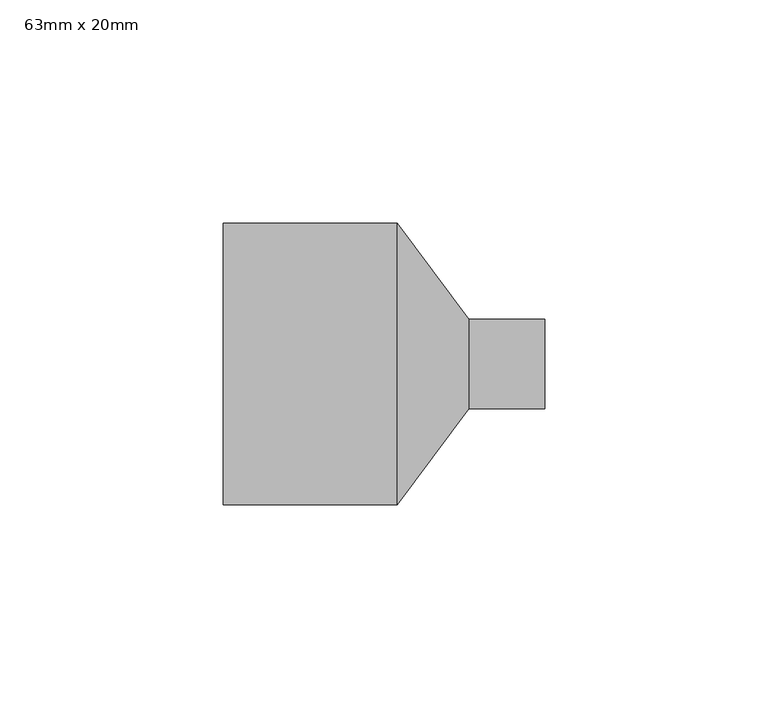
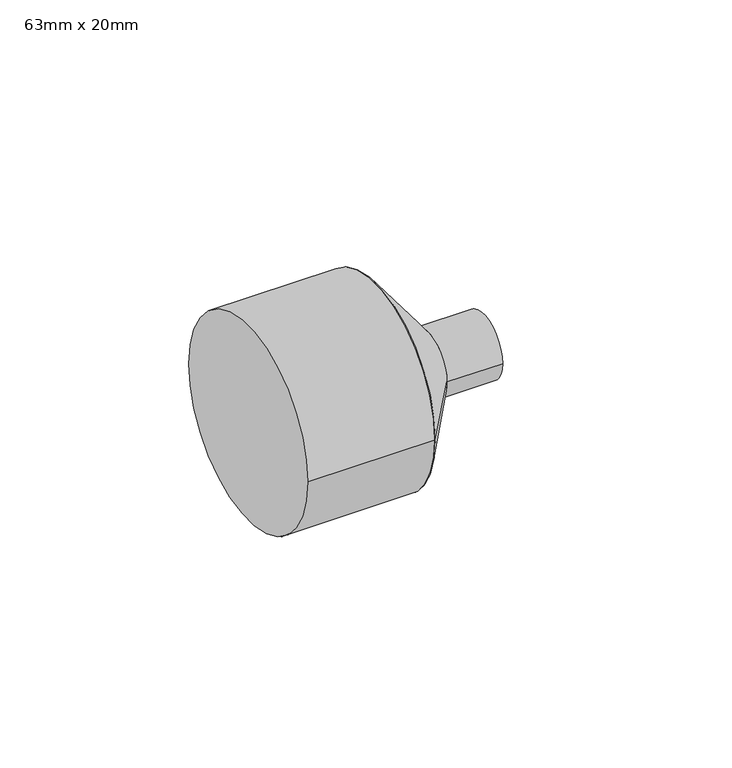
"""IFC4 building model written with IfcOpenShell, lengths in millimetres: pipe fitting geometry, PipeFitting_HTA_CPVC_ReducingBushesLongPattern : 63mm x 20mm."""

from ifc_helpers import new_model, si_unit, point, frame, origin, origin_2d, place, context, project, spatial, polyline, circle_curve, trimmed, segment, composite_curve, outline, extrude, source, transform, mapped, element, save
from ifc_brep_helpers import plane_surface, revolved_surface, advanced_brep


def pipe_fitting_63mm_x_20mm_635b69e5(model_context):
    return source(origin(), model_context, "Body", "SolidModel", [
        advanced_brep(
        [(55.0, -10.0, 0.0), (55.0, 10.0, 0.0), (39.0, -31.5, 0.0), (39.0, 31.5, 0.0)],
        [
            (0, 1, circle_curve(frame((55.0, 0.0, 0.0), z_axis=(1.0, 0.0, 0.0), x_axis=(0.0, -1.0, 0.0)), 10.0)),
            (1, 0, circle_curve(frame((55.0, 0.0, 0.0), z_axis=(1.0, 0.0, 0.0), x_axis=(0.0, 1.0, 0.0)), 10.0)),
            (2, 3, circle_curve(frame((39.0, 0.0, 0.0), z_axis=(-1.0, 0.0, 0.0), x_axis=(0.0, 1.0, 0.0)), 31.5)),
            (3, 2, circle_curve(frame((39.0, 0.0, 0.0), z_axis=(-1.0, 0.0, 0.0), x_axis=(0.0, -1.0, 0.0)), 31.5)),
            (3, 1),
            (0, 2),
        ],
        [
            plane_surface(frame((55.0, 0.0, 0.0), z_axis=(1.0, 0.0, 0.0), x_axis=(0.0, 0.0, -1.0))),
            plane_surface(frame((39.0, 0.0, 0.0), z_axis=(-1.0, 0.0, 0.0), x_axis=(0.0, 0.0, -1.0))),
            revolved_surface(polyline([(55.0, -10.000000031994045, 0.0), (39.0, -31.5, 0.0)]), (62.4418605, 0.0, 0.0), (-1.0, 0.0, 0.0)),
            revolved_surface(polyline([(55.0, 10.000000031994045, 0.0), (39.0, 31.5, 0.0)]), (62.4418605, 0.0, 0.0), (-1.0, 0.0, 0.0)),
        ],
        [
            (0, [[1, 2]]),
            (1, [[3, 4]]),
            (2, [[-4, 5, -1, 6]]),
            (3, [[-3, -6, -2, -5]]),
        ],
    ),
        extrude(outline(composite_curve([segment(trimmed(circle_curve(origin_2d(), 10.0), [point((-10.0, 0.0))], [point((10.0, 0.0))], False, "CARTESIAN"), True, "CONTINUOUS"), segment(trimmed(circle_curve(origin_2d(), 10.0), [point((10.0, 0.0))], [point((-10.0, 0.0))], False, "CARTESIAN"), True, "CONTINUOUS")], self_intersect=False)), frame((55.0, 0.0, 0.0), z_axis=(1.0, 0.0, 0.0), x_axis=(0.0, 1.0, 0.0)), (0.0, 0.0, 1.0), 17.0),
        extrude(outline(composite_curve([segment(trimmed(circle_curve(origin_2d(), 31.5), [point((-31.5, 0.0))], [point((31.5, 0.0))], False, "CARTESIAN"), True, "CONTINUOUS"), segment(trimmed(circle_curve(origin_2d(), 31.5), [point((31.5, 0.0))], [point((-31.5, 0.0))], False, "CARTESIAN"), True, "CONTINUOUS")], self_intersect=False)), frame((0.0, 0.0, 0.0), z_axis=(1.0, 0.0, 0.0), x_axis=(0.0, 1.0, 0.0)), (0.0, 0.0, 1.0), 39.0),
    ])


if __name__ == "__main__":
    model = new_model("IFC4")
    model_context = context("Model", 3, world=origin())
    ifc_project = project(units=[si_unit("LENGTHUNIT", "METRE", prefix="MILLI")], contexts=[model_context])
    site = spatial("IfcSite", under=ifc_project)
    building = spatial("IfcBuilding", under=site)
    placement = place(None, origin())
    pipe_fitting_63mm_x_20mm_shape = pipe_fitting_63mm_x_20mm_635b69e5(model_context)
    element("IfcPipeFitting", 1, ObjectType="PipeFitting_HTA_CPVC_ReducingBushesLongPattern : 63mm x 20mm", at=placement, inside=building, context=model_context, shape_type="MappedRepresentation", body=[
        mapped(pipe_fitting_63mm_x_20mm_shape, transform((0.0, 0.0, 0.0), x_axis=(1.0, 0.0, 0.0), y_axis=(0.0, 1.0, 0.0), z_axis=(0.0, 0.0, 1.0))),
    ])
    save(model, "model.ifc")
